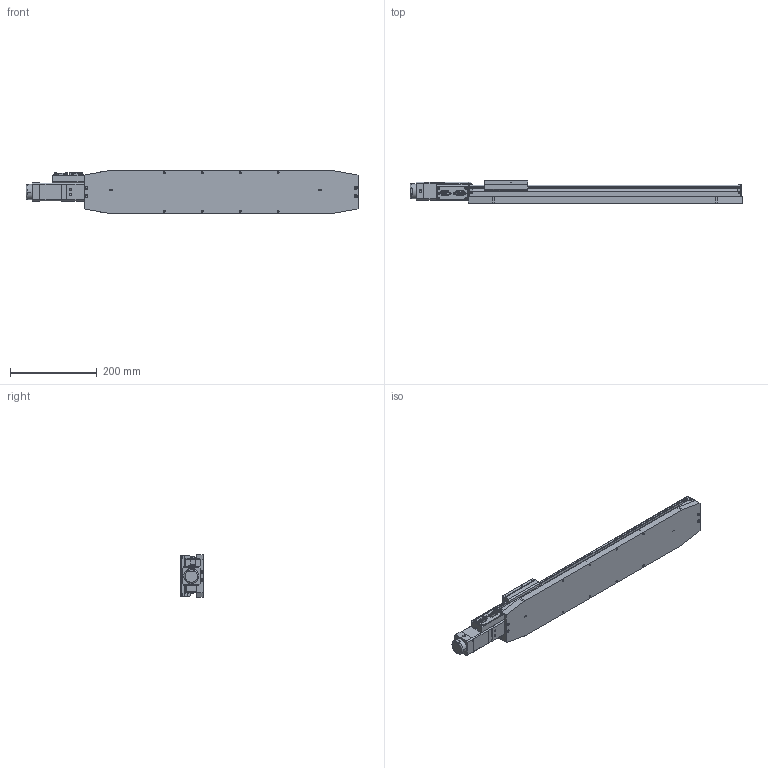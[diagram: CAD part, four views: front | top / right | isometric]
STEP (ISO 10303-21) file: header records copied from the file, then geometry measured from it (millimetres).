
FILE_DESCRIPTION (( 'STEP AP214' ), '1' );
FILE_NAME ('L3500.500-STC_v2_20180822.STEP', '2018-08-22T11:29:23', ( '' ), ( '' ), 'SwSTEP 2.0', 'SolidWorks 2017', '' );
FILE_SCHEMA (( 'AUTOMOTIVE_DESIGN' ));
Length unit declared in the file: millimetre
Products named in the file (1): L3500.500-STC_v2_20180822
Bounding box: 766.45 x 51.67 x 99.06 mm (x, y, z)
Volume: 1616705 mm3; surface area: 507603.4 mm2
Topology: 44 solids, 44 shells, 2740 faces, 6930 edges, 4398 vertices
Faces by surface type: plane 1260, cylinder 1172, cone 225, bspline 53, torus 30
Entity records: 84581 total; most frequent: CARTESIAN_POINT 16898, DIRECTION 14380, ORIENTED_EDGE 13516, EDGE_CURVE 6758, AXIS2_PLACEMENT_3D 5145, VERTEX_POINT 4398, LINE 4090, VECTOR 4090
